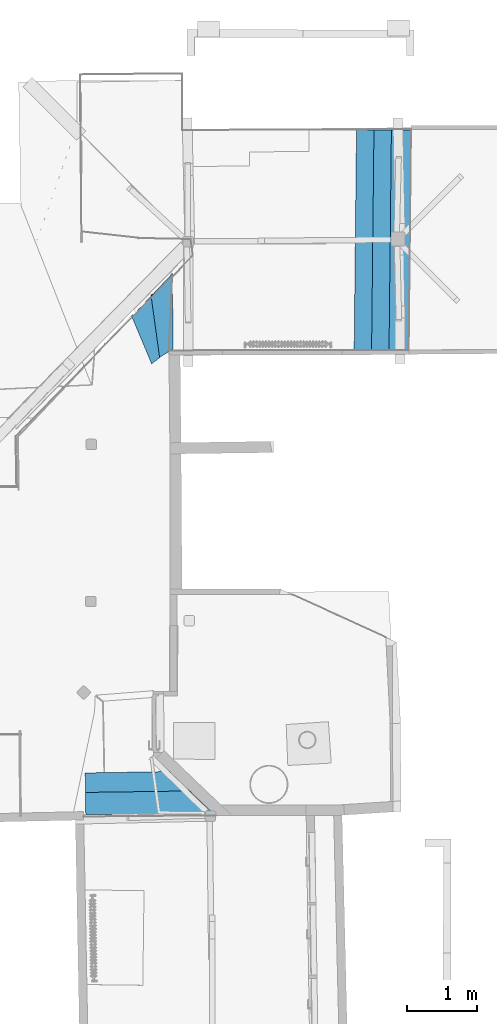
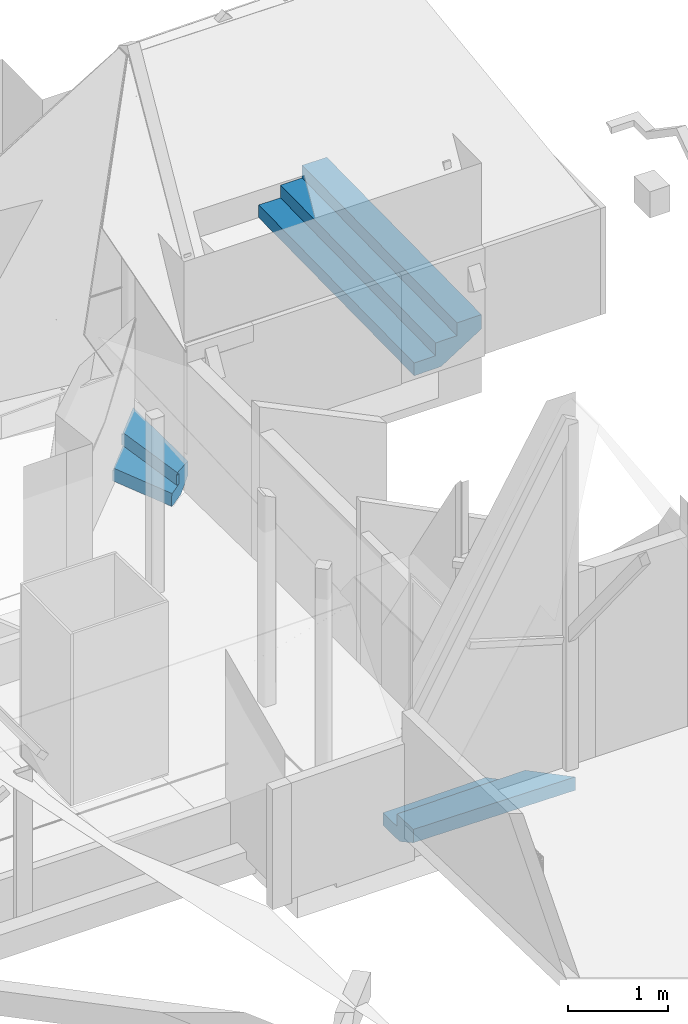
# One storey, part 24 of 39: 3 stair flights, 3 elements without a shape of their own.
"""IFC2X3 building model written with IfcOpenShell, lengths in centimetres."""

from ifc_helpers import new_model, entity, si_unit, converted_unit, direction, frame, origin, origin_with_axes, place, context, subcontext, project, spatial, faceted_brep, material, material_list, element, aggregate, save


model = new_model("IFC2X3")

# Units and contexts
model_context = context("Model", 3, precision=0.0001, world=origin(), true_north=direction((0.225632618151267, 0.974212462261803, 0.0)))
body_context = subcontext(model_context, "Body", "Model", "MODEL_VIEW")
ifc_project = project(units=[si_unit("LENGTHUNIT", "METRE", prefix="CENTI"), si_unit("AREAUNIT", "SQUARE_METRE", prefix="CENTI"), si_unit("VOLUMEUNIT", "CUBIC_METRE", prefix="CENTI"), converted_unit("PLANEANGLEUNIT", "DEGREE", entity("IfcRatioMeasure", 0.0174532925), si_unit("PLANEANGLEUNIT", "RADIAN"), dimensions=[0, 0, 0, 0, 0, 0, 0])], contexts=[model_context])

# Site, building, storey
site_placement = place(None, origin_with_axes())
site = spatial("IfcSite", under=ifc_project, at=site_placement, Name="Default Site", CompositionType="ELEMENT")
building_placement = place(site_placement, origin_with_axes())
building = spatial("IfcBuilding", under=site, at=building_placement, Name="Default Building", CompositionType="ELEMENT")
storey_placement = place(building_placement, frame((0.0, 0.0, 1088.91037418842), z_axis=(0.0, 0.0, 1.0), x_axis=(1.0, 0.0, 0.0)))
storey = spatial("IfcBuildingStorey", under=building, at=storey_placement, Name="Mezzanine", CompositionType="ELEMENT", Elevation=1088.91037418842)

# Stair, stair flight
stair_1_placement = place(storey_placement, frame((446.985837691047, -293.779378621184, 1.08962581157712), z_axis=(0.0, 0.0, 1.0), x_axis=(1.0, 0.0, 0.0)))
stair_1 = element("IfcStair", 1, at=stair_1_placement, inside=storey, Name="Escalier 197960", ShapeType="NOTDEFINED")
ifc_material_1 = material(Name="Blanc")
ifc_material_2 = material(Name="Blanc apricena")
ifc_material_3 = material(Name="Brèche oniciata")
ifc_material_list = material_list([ifc_material_1, ifc_material_2, ifc_material_3])
stair_flight_1_placement = place(stair_1_placement, frame((61.4881784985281, 0.99156448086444, 12.3333549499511), z_axis=(0.0, 0.0, 1.0), x_axis=(0.0161330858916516, -0.999869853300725, 0.0)))
stair_flight_1 = element("IfcStairFlight", 2, at=stair_flight_1_placement, material=ifc_material_list, Name="4294967292", context=body_context, shape_type="Brep", body=[
    faceted_brep([(-2.99998226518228, 0.0, -12.3333930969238), (0.0, 0.0, -12.3333930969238), (-0.00112768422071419, -122.992315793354, -12.3333930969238), (-3.00113340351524, -122.992291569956, -12.3333930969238), (0.0, 0.0, 0.0), (-2.99998226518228, 0.0, 0.0), (-3.00113340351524, -122.992291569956, 0.0), (-0.00112768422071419, -122.992315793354, 0.0), (-3.00113348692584, -122.992291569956, -12.3333930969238), (-2.99998218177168, -7.80732622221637e-13, 0.0), (-2.99998226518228, -1.15196738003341e-09, -12.3333930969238), (-4.42345563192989e-19, 1.15196738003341e-09, 0.0), (-5.5560125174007e-08, 5.09391087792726e-13, -12.3333930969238), (-0.00112762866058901, -122.992315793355, 0.0), (-0.00112768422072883, -122.992315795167, -12.3333930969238), (-3.00113340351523, -122.992291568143, 0.0)], [[[0, 1, 2]], [[2, 3, 0]], [[4, 5, 6]], [[6, 7, 4]], [[5, 0, 8]], [[3, 6, 9]], [[4, 1, 10]], [[0, 5, 11]], [[7, 2, 12]], [[1, 4, 13]], [[6, 3, 14]], [[2, 7, 15]]]),
    faceted_brep([(25.2440559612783, 29.1303420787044, 2.99997329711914), (28.244064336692, 29.1245711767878, 2.99997329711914), (27.9511390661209, -123.062574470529, 2.99997329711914), (24.9511306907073, -123.056803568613, 2.99997329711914), (28.244064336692, 29.1245711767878, 15.3332710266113), (25.2440559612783, 29.1303420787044, 15.3332710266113), (24.9511306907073, -123.056803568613, 15.3332710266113), (27.9511390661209, -123.062574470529, 15.3332710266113), (24.9511307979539, -123.056803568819, 2.99997329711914), (25.2440558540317, 29.1303420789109, 15.3332710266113), (25.2440559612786, 29.1303420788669, 2.99997329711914), (28.2440643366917, 29.1245711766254, 15.3332710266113), (28.2440642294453, 29.1245711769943, 2.99997329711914), (27.9511391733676, -123.062574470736, 15.3332710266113), (27.9511390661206, -123.062574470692, 2.99997329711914), (24.9511306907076, -123.05680356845, 15.3332710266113)], [[[0, 1, 2]], [[2, 3, 0]], [[4, 5, 6]], [[6, 7, 4]], [[5, 0, 8]], [[3, 6, 9]], [[4, 1, 10]], [[0, 5, 11]], [[7, 2, 12]], [[1, 4, 13]], [[6, 3, 14]], [[2, 7, 15]]]),
    faceted_brep([(-0.00112768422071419, -122.992315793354, -12.3333930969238), (-0.00112768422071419, -122.992315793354, 0.0), (-5.5560125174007e-08, 5.09391087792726e-13, 0.0), (0.0, 0.0, 0.0), (0.0, 0.0, -12.3333930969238), (-0.00112762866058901, -122.992315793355, -12.3333930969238), (27.9511390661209, -123.062574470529, 0.0), (27.9511390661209, -123.062574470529, 15.3332710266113), (28.2440642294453, 29.1245711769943, 15.3332710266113), (28.244064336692, 29.1245711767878, 15.3332710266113), (28.244064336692, 29.1245711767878, 0.0), (27.9511391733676, -123.062574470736, 0.0), (56.4440922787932, -123.134189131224, 15.3332710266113), (61.0802453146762, 62.9844810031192, 15.3332710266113), (56.4440922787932, -123.134189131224, 2.03256607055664), (61.0802453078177, 62.98448100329, 2.03256607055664), (61.0802453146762, 62.9844810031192, 2.03256607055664), (56.4440922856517, -123.134189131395, 15.3332710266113), (32.4669739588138, 33.4791494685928, -12.3333930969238), (30.0021280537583, -123.067721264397, -12.3333930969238), (30.0021280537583, -123.067721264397, 15.3332710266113), (27.9511390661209, -123.062574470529, -2.65524129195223e-32), (27.951139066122, -123.06257447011, 2.66308143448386e-16), (-0.00112768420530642, -122.992315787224, -12.3333930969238), (27.9511390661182, -123.062574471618, 0.0), (30.0021280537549, -123.067721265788, 15.3332710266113), (56.4440922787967, -123.134189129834, 2.03256607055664), (32.4669741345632, 33.4791492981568, -12.3333930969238), (-1.37798268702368e-07, 1.33632291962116e-07, 2.13895310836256e-13), (28.2440643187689, 29.1245711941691, 2.78208859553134e-14), (28.2440643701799, 29.1245711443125, 0.0), (32.4669739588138, 33.4791494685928, 15.3332710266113), (28.2440643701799, 29.1245711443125, 2.78478645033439e-24), (28.2440643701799, 29.1245711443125, 15.3332710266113), (32.4669745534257, 33.4791488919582, -12.3333930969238), (32.4669745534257, 33.4791488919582, 15.3332710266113), (61.0802447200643, 62.9844815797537, 15.3332710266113), (61.0802447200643, 62.9844815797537, 2.03256607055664), (61.0802451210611, 62.9844810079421, 2.03256644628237), (56.4440920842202, -123.134189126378, 2.03256644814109), (56.4440924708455, -123.134189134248, 2.03256571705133), (30.0021280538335, -123.067721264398, -12.3333930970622)], [[[0, 1, 2]], [[3, 4, 5]], [[6, 7, 8]], [[9, 10, 11]], [[3, 1, 6]], [[6, 10, 3]], [[9, 7, 12]], [[12, 13, 9]], [[12, 14, 15]], [[16, 13, 17]], [[4, 18, 19]], [[19, 0, 4]], [[7, 19, 20]], [[19, 7, 21]], [[19, 22, 23]], [[0, 24, 1]], [[14, 12, 25]], [[20, 19, 26]], [[3, 27, 4]], [[18, 28, 29]], [[18, 30, 31]], [[31, 32, 33]], [[16, 34, 35]], [[31, 36, 37]], [[18, 38, 39]], [[18, 40, 41]]]),
    faceted_brep([(-3.00001436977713, -3.09359706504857, 2.99997329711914), (-3.00113143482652, -122.984780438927, 2.99997329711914), (27.9511390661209, -123.062574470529, 2.99997329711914), (28.244064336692, 29.1245711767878, 2.99997329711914), (27.9511390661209, -123.062574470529, 0.0), (-3.00113143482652, -122.984780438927, 0.0), (-3.00001436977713, -3.09359706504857, 0.0), (28.244064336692, 29.1245711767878, 0.0), (-3.00001437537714, -3.09359706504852, 2.99997329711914), (-3.00113142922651, -122.984780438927, 0.0), (-3.0011314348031, -122.98478042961, 2.99997329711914), (27.9511390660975, -123.062574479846, 0.0), (27.9511391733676, -123.062574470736, 2.99997329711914), (28.2440642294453, 29.1245711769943, 0.0), (28.2440646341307, 29.124570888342, 2.99997329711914), (-3.00001466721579, -3.09359677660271, 0.0)], [[[0, 1, 2]], [[2, 3, 0]], [[4, 5, 6]], [[6, 7, 4]], [[5, 1, 8]], [[0, 6, 9]], [[4, 2, 10]], [[1, 5, 11]], [[7, 3, 12]], [[2, 4, 13]], [[6, 0, 14]], [[3, 7, 15]]]),
    faceted_brep([(25.2380856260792, 26.0248706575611, 18.3333396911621), (24.9511306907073, -123.056803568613, 18.3333396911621), (56.4440922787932, -123.134189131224, 18.3333396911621), (61.0802453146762, 62.9844810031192, 18.3333396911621), (56.4440922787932, -123.134189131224, 15.3332710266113), (24.9511306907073, -123.056803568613, 15.3332710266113), (25.2380856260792, 26.0248706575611, 15.3332710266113), (61.0802453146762, 62.9844810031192, 15.3332710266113), (25.2380856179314, 26.0248706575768, 18.3333396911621), (24.9511306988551, -123.056803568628, 15.3332710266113), (24.951130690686, -123.056803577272, 18.3333396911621), (56.4440922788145, -123.134189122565, 15.3332710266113), (56.4440922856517, -123.134189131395, 18.3333396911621), (61.0802453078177, 62.98448100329, 15.3332710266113), (61.0802449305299, 62.9844813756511, 18.3333396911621), (25.2380860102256, 26.0248702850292, 15.3332710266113)], [[[0, 1, 2]], [[2, 3, 0]], [[4, 5, 6]], [[6, 7, 4]], [[5, 1, 8]], [[0, 6, 9]], [[4, 2, 10]], [[1, 5, 11]], [[7, 3, 12]], [[2, 4, 13]], [[6, 0, 14]], [[3, 7, 15]]]),
])
aggregate(stair_1, [stair_flight_1])

stair_2_placement = place(storey_placement, frame((775.384677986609, 471.172017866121, 47.9047533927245), z_axis=(0.0, 0.0, 1.0), x_axis=(1.0, 0.0, 0.0)))
stair_2 = element("IfcStair", 3, at=stair_2_placement, inside=storey, Name="Escalier 193050", ShapeType="NOTDEFINED")
stair_flight_2_placement = place(stair_2_placement, frame((1.68207730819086, 158.197956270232, 12.5461967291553), z_axis=(0.0, 0.0, 1.0), x_axis=(0.999943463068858, -0.010633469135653, 0.0)))
stair_flight_2 = element("IfcStairFlight", 4, at=stair_flight_2_placement, material=ifc_material_list, Name="4294967277", context=body_context, shape_type="Brep", body=[
    faceted_brep([(-2.99999985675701, 0.0, -12.5461578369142), (0.0, 0.0, -12.5461578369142), (0.000442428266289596, -316.413786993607, -12.5461578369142), (-2.99955717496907, -316.413810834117, -12.5461578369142), (0.0, 0.0, -1.77635683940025e-13), (-2.99999985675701, 0.0, -1.77635683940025e-13), (-2.99955717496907, -316.413810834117, -1.77635683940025e-13), (0.000442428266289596, -316.413786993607, -1.77635683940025e-13), (-2.99955700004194, -316.413810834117, -12.5461578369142), (-3.00000003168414, -2.44830198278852e-13, -1.77635683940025e-13), (-2.99999985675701, 2.16000557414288e-09, -12.5461578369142), (-1.55520810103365e-18, -2.16000557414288e-09, -1.77635683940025e-13), (-1.33748773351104e-07, -1.87071894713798e-13, -12.5461578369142), (0.000442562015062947, -316.413786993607, -1.77635683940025e-13), (0.000442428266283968, -316.413786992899, -12.5461578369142), (-2.99955717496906, -316.413810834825, -1.77635683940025e-13)], [[[0, 1, 2]], [[2, 3, 0]], [[4, 5, 6]], [[6, 7, 4]], [[5, 0, 8]], [[3, 6, 9]], [[4, 1, 10]], [[0, 5, 11]], [[7, 2, 12]], [[1, 4, 13]], [[6, 3, 14]], [[2, 7, 15]]]),
    faceted_brep([(22.0146145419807, 0.121851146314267, 3.0000686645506), (25.0146686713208, 0.121231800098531, 3.0000686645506), (24.9480512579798, -315.762208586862, 3.0000686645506), (21.9479968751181, -315.761565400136, 3.0000686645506), (25.0146686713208, 0.121231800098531, 15.5462265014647), (22.0146145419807, 0.121851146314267, 15.5462265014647), (21.9479968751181, -315.761565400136, 15.5462265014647), (24.9480512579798, -315.762208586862, 15.5462265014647), (21.9479968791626, -315.761565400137, 3.0000686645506), (22.0146145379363, 0.12185114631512, 15.5462265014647), (22.0146145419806, 0.121851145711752, 3.0000686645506), (25.0146686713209, 0.121231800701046, 15.5462265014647), (25.0146686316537, 0.121231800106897, 3.0000686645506), (24.948051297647, -315.762208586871, 15.5462265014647), (24.9480512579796, -315.762208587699, 3.0000686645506), (21.9479968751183, -315.761565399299, 15.5462265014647)], [[[0, 1, 2]], [[2, 3, 0]], [[4, 5, 6]], [[6, 7, 4]], [[5, 0, 8]], [[3, 6, 9]], [[4, 1, 10]], [[0, 5, 11]], [[7, 2, 12]], [[1, 4, 13]], [[6, 3, 14]], [[2, 7, 15]]]),
    faceted_brep([(47.0013882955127, 0.242929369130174, 18.5461997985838), (50.0013470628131, 0.242309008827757, 18.5461997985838), (49.9349426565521, -315.109592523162, 18.5461997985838), (46.9349836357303, -315.10894832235, 18.5461997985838), (50.0013470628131, 0.242309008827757, 31.0924530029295), (47.0013882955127, 0.242929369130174, 31.0924530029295), (46.9349836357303, -315.10894832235, 31.0924530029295), (49.9349426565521, -315.109592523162, 31.0924530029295), (46.9349836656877, -315.108948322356, 18.5461997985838), (47.0013882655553, 0.242929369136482, 31.0924530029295), (47.0013882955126, 0.24292936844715, 18.5461997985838), (50.0013470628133, 0.242309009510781, 31.0924530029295), (50.0013469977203, 0.242309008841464, 18.5461997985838), (49.934942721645, -315.109592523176, 31.0924530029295), (49.9349426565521, -315.109592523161, 18.5461997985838), (46.9349836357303, -315.108948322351, 31.0924530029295)], [[[0, 1, 2]], [[2, 3, 0]], [[4, 5, 6]], [[6, 7, 4]], [[5, 0, 8]], [[3, 6, 9]], [[4, 1, 10]], [[0, 5, 11]], [[7, 2, 12]], [[1, 4, 13]], [[6, 3, 14]], [[2, 7, 15]]]),
    faceted_brep([(0.000442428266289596, -316.413786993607, -12.5461578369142), (0.000442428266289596, -316.413786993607, -1.77635683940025e-13), (-1.33748773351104e-07, -1.87071894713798e-13, -1.77635683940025e-13), (0.0, 0.0, -1.77635683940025e-13), (0.0, 0.0, -12.5461578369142), (0.000442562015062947, -316.413786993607, -12.5461578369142), (24.9480512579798, -315.762208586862, -1.77635683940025e-13), (24.9480512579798, -315.762208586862, 15.5462265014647), (25.0146686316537, 0.121231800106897, 15.5462265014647), (25.0146686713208, 0.121231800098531, 15.5462265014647), (25.0146686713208, 0.121231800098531, -1.77635683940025e-13), (24.948051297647, -315.762208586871, -1.77635683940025e-13), (49.9349426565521, -315.109592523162, 15.5462265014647), (49.9349426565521, -315.109592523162, 31.0924530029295), (50.0013469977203, 0.242309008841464, 31.0924530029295), (50.0013470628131, 0.242309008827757, 31.0924530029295), (50.0013470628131, 0.242309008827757, 15.5462265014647), (49.934942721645, -315.109592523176, 15.5462265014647), (75.3619050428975, -314.445477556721, 31.0924530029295), (75.3501374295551, 0.365138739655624, 31.0924530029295), (75.3619050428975, -314.445477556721, 16.4527893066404), (75.3501373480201, 0.365138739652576, 16.4527893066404), (75.3501374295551, 0.365138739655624, 16.4527893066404), (75.3619051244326, -314.445477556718, 31.0924530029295), (28.4989352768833, 0.138112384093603, -12.5461578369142), (28.5037547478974, -315.669343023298, -12.5461578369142), (75.3501380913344, 0.365138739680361, 16.4527882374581), (75.361905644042, -314.445477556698, 16.4527883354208), (28.5037540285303, -315.669343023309, -12.5461566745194), (28.4989345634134, 0.138112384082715, -12.5461566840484), (24.9480512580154, -315.762208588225, -1.77460889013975e-13), (0.000442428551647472, -316.413787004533, -12.5461578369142), (28.5037547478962, -315.669343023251, -12.5461578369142), (28.5037547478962, -315.669343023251, 15.5462265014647), (24.9480512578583, -315.76220858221, -1.77635683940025e-13), (49.9349426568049, -315.109592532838, 15.5462265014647), (28.5037547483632, -315.66934304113, -12.5461578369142), (75.3619050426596, -314.445477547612, 16.4527893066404), (75.3619050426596, -314.445477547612, 31.0924530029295), (28.5037547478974, -315.669343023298, 15.5462265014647), (49.9349426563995, -315.109592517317, 15.5462265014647), (28.4989352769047, 0.138112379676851, -12.5461578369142), (-1.10571986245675e-11, 2.28151495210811e-09, -1.78665781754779e-13), (25.0146686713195, 0.121231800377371, -1.7776157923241e-13), (25.0146686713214, 0.121231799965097, -1.77635683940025e-13), (28.4989352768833, 0.138112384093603, 15.5462265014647), (25.0146686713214, 0.121231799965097, 15.5462265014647), (50.0013470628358, 0.242309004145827, 15.5462265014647), (75.3501374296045, 0.365138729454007, 16.4527893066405), (28.498935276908, 0.138112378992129, -12.5461578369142), (28.498935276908, 0.138112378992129, 15.5462265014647), (50.0013470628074, 0.242309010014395, 15.5462265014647), (50.0013470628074, 0.242309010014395, 31.0924530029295)], [[[0, 1, 2]], [[3, 4, 5]], [[6, 7, 8]], [[9, 10, 11]], [[12, 13, 14]], [[15, 16, 17]], [[3, 1, 6]], [[6, 10, 3]], [[9, 7, 12]], [[12, 16, 9]], [[15, 13, 18]], [[18, 19, 15]], [[18, 20, 21]], [[22, 19, 23]], [[4, 24, 25]], [[25, 0, 4]], [[24, 26, 27]], [[20, 28, 29]], [[25, 30, 31]], [[6, 32, 33]], [[6, 33, 7]], [[1, 0, 34]], [[20, 35, 36]], [[12, 37, 13]], [[13, 37, 38]], [[39, 25, 40]], [[3, 41, 4]], [[24, 42, 43]], [[24, 44, 45]], [[45, 44, 46]], [[24, 47, 48]], [[16, 49, 50]], [[22, 51, 52]], [[22, 52, 19]]]),
    faceted_brep([(-3.00003593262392, -0.0145447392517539, 3.0000686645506), (-2.99958236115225, -316.492159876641, 3.0000686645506), (24.9480512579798, -315.762208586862, 3.0000686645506), (25.0146686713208, 0.121231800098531, 3.0000686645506), (24.9480512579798, -315.762208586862, -1.77635683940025e-13), (-2.99958236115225, -316.492159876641, -1.77635683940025e-13), (-3.00003593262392, -0.0145447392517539, -1.77635683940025e-13), (25.0146686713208, 0.121231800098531, -1.77635683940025e-13), (-3.00003591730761, -0.014544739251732, 3.0000686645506), (-2.99958237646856, -316.492159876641, -1.77635683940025e-13), (-2.99958236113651, -316.492159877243, 3.0000686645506), (24.9480512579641, -315.76220858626, -1.77635683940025e-13), (24.948051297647, -315.762208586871, 3.0000686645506), (25.0146686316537, 0.121231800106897, -1.77635683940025e-13), (25.014668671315, 0.121231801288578, 3.0000686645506), (-3.00003593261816, -0.0145447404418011, -1.77635683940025e-13)], [[[0, 1, 2]], [[2, 3, 0]], [[4, 5, 6]], [[6, 7, 4]], [[5, 1, 8]], [[0, 6, 9]], [[4, 2, 10]], [[1, 5, 11]], [[7, 3, 12]], [[2, 4, 13]], [[6, 0, 14]], [[3, 7, 15]]]),
    faceted_brep([(22.0145850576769, 0.106686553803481, 18.5461997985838), (21.9479785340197, -315.840558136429, 18.5461997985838), (49.9349426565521, -315.109592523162, 18.5461997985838), (50.0013470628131, 0.242309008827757, 18.5461997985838), (49.9349426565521, -315.109592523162, 15.5462265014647), (21.9479785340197, -315.840558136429, 15.5462265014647), (22.0145850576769, 0.106686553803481, 15.5462265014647), (50.0013470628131, 0.242309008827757, 15.5462265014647), (22.0145852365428, 0.106686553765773, 18.5461997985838), (21.9479783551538, -315.840558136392, 15.5462265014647), (21.9479785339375, -315.840558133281, 18.5461997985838), (49.9349426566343, -315.10959252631, 15.5462265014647), (49.934942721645, -315.109592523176, 18.5461997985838), (50.0013469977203, 0.242309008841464, 15.5462265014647), (50.0013470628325, 0.242309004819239, 18.5461997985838), (22.0145850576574, 0.106686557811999, 15.5462265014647)], [[[0, 1, 2]], [[2, 3, 0]], [[4, 5, 6]], [[6, 7, 4]], [[5, 1, 8]], [[0, 6, 9]], [[4, 2, 10]], [[1, 5, 11]], [[7, 3, 12]], [[2, 4, 13]], [[6, 0, 14]], [[3, 7, 15]]]),
    faceted_brep([(47.001358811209, 0.227764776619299, 34.0924263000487), (46.9349652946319, -315.187941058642, 34.0924263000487), (75.3619050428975, -314.445477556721, 34.0924263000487), (75.3501374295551, 0.365138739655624, 34.0924263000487), (75.3619050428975, -314.445477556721, 31.0924530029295), (46.9349652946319, -315.187941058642, 31.0924530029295), (47.001358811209, 0.227764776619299, 31.0924530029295), (75.3501374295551, 0.365138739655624, 31.0924530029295), (47.0013586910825, 0.227764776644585, 34.0924263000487), (46.9349654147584, -315.187941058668, 31.0924530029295), (46.9349652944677, -315.187941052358, 34.0924263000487), (75.3619050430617, -314.445477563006, 31.0924530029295), (75.3619051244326, -314.445477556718, 34.0924263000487), (75.3501373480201, 0.365138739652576, 31.0924530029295), (75.3501374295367, 0.365138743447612, 34.0924263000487), (47.0013588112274, 0.22776477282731, 31.0924530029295)], [[[0, 1, 2]], [[2, 3, 0]], [[4, 5, 6]], [[6, 7, 4]], [[5, 1, 8]], [[0, 6, 9]], [[4, 2, 10]], [[1, 5, 11]], [[7, 3, 12]], [[2, 4, 13]], [[6, 0, 14]], [[3, 7, 15]]]),
])
aggregate(stair_2, [stair_flight_2])

stair_3_placement = place(storey_placement, frame((468.799430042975, 330.224629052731, 1.08962581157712), z_axis=(0.0, 0.0, 1.0), x_axis=(1.0, 0.0, 0.0)))
stair_3 = element("IfcStair", 5, at=stair_3_placement, inside=storey, Name="Escalier 192842", ShapeType="NOTDEFINED")
stair_flight_3_placement = place(stair_3_placement, frame((-14.3326102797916, 34.1112178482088, 12.9999732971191), z_axis=(0.0, 0.0, 1.0), x_axis=(0.921926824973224, 0.387364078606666, 0.0)))
stair_flight_3 = element("IfcStairFlight", 6, at=stair_flight_3_placement, material=ifc_material_list, Name="4294967260", context=body_context, shape_type="Brep", body=[
    faceted_brep([(-3.00001962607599, 2.22044604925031e-14, -13.0000114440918), (0.0, 0.0, -13.0000114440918), (0.000288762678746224, -74.0000020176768, -13.0000114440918), (-2.99973086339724, -74.0000020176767, -13.0000114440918), (0.0, 0.0, 0.0), (-3.00001962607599, 2.22044604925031e-14, 0.0), (-2.99973086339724, -74.0000020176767, 0.0), (0.000288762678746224, -74.0000020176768, 0.0), (-2.99973136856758, -74.0000020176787, -13.0000114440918), (-3.00001912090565, 1.99003067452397e-12, 0.0), (-3.00001962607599, -6.32610421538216e-08, -13.0000114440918), (-1.33397822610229e-15, 6.32610643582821e-08, 0.0), (5.05170340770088e-07, 1.96782621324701e-12, -13.0000114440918), (0.000288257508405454, -74.0000020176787, 0.0), (0.00028876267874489, -74.0000019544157, -13.0000114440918), (-2.99973086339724, -74.0000020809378, 0.0)], [[[0, 1, 2]], [[2, 3, 0]], [[4, 5, 6]], [[6, 7, 4]], [[5, 0, 8]], [[3, 6, 9]], [[4, 1, 10]], [[0, 5, 11]], [[7, 2, 12]], [[1, 4, 13]], [[6, 3, 14]], [[2, 7, 15]]]),
    faceted_brep([(34.4873365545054, 17.3662001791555, 3.00006866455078), (37.3861394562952, 16.5936443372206, 3.00006866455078), (14.3024769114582, -70.0227739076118, 3.00006866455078), (11.4036740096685, -69.2502180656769, 3.00006866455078), (37.3861394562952, 16.5936443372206, 15.9999847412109), (34.4873365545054, 17.3662001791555, 15.9999847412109), (11.4036740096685, -69.2502180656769, 15.9999847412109), (14.3024769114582, -70.0227739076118, 15.9999847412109), (11.4036737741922, -69.2502180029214, 3.00006866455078), (34.4873367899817, 17.3662001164, 15.9999847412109), (34.4873365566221, 17.3662001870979, 3.00006866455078), (37.3861394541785, 16.5936443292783, 15.9999847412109), (37.3861396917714, 16.5936442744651, 3.00006866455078), (14.302476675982, -70.0227738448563, 15.9999847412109), (14.3024769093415, -70.0227739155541, 3.00006866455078), (11.4036740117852, -69.2502180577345, 15.9999847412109)], [[[0, 1, 2]], [[2, 3, 0]], [[4, 5, 6]], [[6, 7, 4]], [[5, 0, 8]], [[3, 6, 9]], [[4, 1, 10]], [[0, 5, 11]], [[7, 2, 12]], [[1, 4, 13]], [[6, 3, 14]], [[2, 7, 15]]]),
    faceted_brep([(0.000288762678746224, -74.0000020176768, -13.0000114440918), (0.000288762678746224, -74.0000020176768, 0.0), (5.05170340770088e-07, 1.96782621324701e-12, 0.0), (0.0, 0.0, 0.0), (0.0, 0.0, -13.0000114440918), (0.000288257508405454, -74.0000020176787, -13.0000114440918), (14.3024769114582, -70.0227739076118, 0.0), (14.3024769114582, -70.0227739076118, 15.9999847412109), (37.3861396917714, 16.5936442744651, 15.9999847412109), (37.3861394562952, 16.5936443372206, 15.9999847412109), (37.3861394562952, 16.5936443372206, 0.0), (14.302476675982, -70.0227738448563, 0.0), (33.5974535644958, -66.9082646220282, 15.9999847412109), (74.6124969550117, 33.1163525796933, 15.9999847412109), (33.5974535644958, -66.9082646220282, 1.86920166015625), (74.6124969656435, 33.1163525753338, 1.86920166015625), (74.6124969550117, 33.1163525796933, 1.86920166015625), (33.597453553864, -66.9082646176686, 15.9999847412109), (39.9428868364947, 17.72844508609, -13.0000114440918), (14.3024769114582, -70.0227739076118, -13.0000114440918), (17.8278276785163, -69.4537092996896, -13.0000114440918), (0.000288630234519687, -74.0000015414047, 0.0), (14.3024770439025, -70.0227743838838, -13.0000114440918), (17.8278276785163, -69.4537092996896, 15.9999847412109), (14.3024768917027, -70.0227737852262, -13.0000114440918), (17.8278276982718, -69.4537094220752, 15.9999847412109), (17.8278277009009, -69.4537094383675, 15.9999847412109), (33.5974535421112, -66.9082644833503, 1.86920166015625), (39.9428868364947, 17.72844508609, 15.9999847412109), (37.3861394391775, 16.5936443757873, 0.0), (37.3861394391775, 16.5936443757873, 15.9999847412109), (-3.14384822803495e-07, 7.08321522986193e-07, -13.0000114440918), (-3.14384822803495e-07, 7.08321522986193e-07, 0.0), (37.3861389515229, 16.5936454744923, 1.36591385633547e-13), (39.9428862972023, 17.728446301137, -13.0000114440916), (39.9428872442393, 17.7284441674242, -13.0000114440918), (39.9428872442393, 17.7284441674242, 15.9999847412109), (74.6124965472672, 33.1163534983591, 15.9999847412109), (74.6124965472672, 33.1163534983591, 1.86920166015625), (37.846729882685, -24.954719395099, -7.23228454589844), (17.8278276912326, -69.4537093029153, -13.0000114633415), (39.9428865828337, 17.7284451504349, -13.0000110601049), (49.8188461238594, -5.50175411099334, -3.76014709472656), (39.9428867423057, 17.728445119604, -13.0000112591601), (74.6124969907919, 33.1163525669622, 1.86920158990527), (37.8467298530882, -24.9547193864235, -7.23228449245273), (39.9428867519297, 17.7284451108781, -13.0000112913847), (36.0631495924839, -46.0470706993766, -3.20968627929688), (33.5974535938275, -66.9082646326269, 1.86920163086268), (17.8278276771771, -69.4537092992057, -13.0000114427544), (17.8278277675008, -69.453709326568, -13.0000115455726), (37.8467298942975, -24.9547193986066, -7.2322845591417), (41.9846273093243, -36.2986902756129, -1.37357711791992), (74.6124970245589, 33.1163525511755, 1.8692015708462), (33.5974536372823, -66.9082646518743, 1.86920156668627), (49.8188461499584, -5.50175412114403, -3.76014714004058), (74.6124969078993, 33.1163525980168, 1.86920174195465), (36.0631495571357, -46.0470706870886, -3.2096862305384), (37.8467297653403, -24.9547193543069, -7.23228438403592), (37.8467297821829, -24.9547193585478, -7.23228440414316), (49.8188460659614, -5.50175408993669, -3.76014701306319), (33.5974536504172, -66.9082646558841, 1.86920156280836), (36.0631495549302, -46.0470706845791, -3.20968623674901)], [[[0, 1, 2]], [[3, 4, 5]], [[6, 7, 8]], [[9, 10, 11]], [[3, 1, 6]], [[6, 10, 3]], [[9, 7, 12]], [[12, 13, 9]], [[12, 14, 15]], [[16, 13, 17]], [[18, 0, 4]], [[0, 18, 19]], [[19, 18, 20]], [[19, 6, 21]], [[1, 0, 22]], [[23, 24, 20]], [[19, 25, 6]], [[6, 25, 7]], [[14, 12, 26]], [[23, 20, 27]], [[28, 29, 30]], [[10, 31, 32]], [[4, 33, 34]], [[18, 29, 28]], [[16, 35, 36]], [[28, 37, 38]], [[39, 40, 41]], [[42, 43, 44]], [[42, 45, 46]], [[47, 48, 49]], [[47, 50, 51]], [[52, 53, 54]], [[52, 55, 56]], [[52, 57, 58]], [[52, 59, 60]], [[52, 61, 62]]]),
    faceted_brep([(-3.00001096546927, -1.33152968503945, 3.00006866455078), (-2.99973519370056, -74.834246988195, 3.00006866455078), (14.3024769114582, -70.0227739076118, 3.00006866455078), (37.3861394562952, 16.5936443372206, 3.00006866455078), (14.3024769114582, -70.0227739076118, 0.0), (-2.99973519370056, -74.834246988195, 0.0), (-3.00001096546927, -1.33152968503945, 0.0), (37.3861394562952, 16.5936443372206, 0.0), (-3.00001173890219, -1.33152968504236, 3.00006866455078), (-2.99973442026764, -74.8342469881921, 0.0), (-2.99973512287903, -74.8342472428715, 3.00006866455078), (14.3024768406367, -70.0227736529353, 0.0), (14.302476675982, -70.0227738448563, 3.00006866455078), (37.3861396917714, 16.5936442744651, 0.0), (37.3861392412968, 16.5936448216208, 3.00006866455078), (-3.00001075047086, -1.33153016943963, 0.0)], [[[0, 1, 2]], [[2, 3, 0]], [[4, 5, 6]], [[6, 7, 4]], [[5, 1, 8]], [[0, 6, 9]], [[4, 2, 10]], [[1, 5, 11]], [[7, 3, 12]], [[2, 4, 13]], [[6, 0, 14]], [[3, 7, 15]]]),
    faceted_brep([(10.949246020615, -70.9552480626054, 19.0000534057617), (74.6124969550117, 33.1163525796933, 19.0000534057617), (33.8649104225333, 15.0307720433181, 19.0000534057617), (14.3024769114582, -70.0227739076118, 19.0000534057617), (33.5974535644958, -66.9082646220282, 19.0000534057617), (74.6124969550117, 33.1163525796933, 15.9999847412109), (10.949246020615, -70.9552480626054, 15.9999847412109), (33.8649104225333, 15.0307720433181, 15.9999847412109), (14.3024769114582, -70.0227739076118, 15.9999847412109), (33.5974535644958, -66.9082646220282, 15.9999847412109), (33.8649103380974, 15.0307720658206, 19.0000534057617), (10.9492461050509, -70.9552480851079, 15.9999847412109), (10.949246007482, -70.9552480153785, 19.0000534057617), (14.3024769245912, -70.0227739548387, 15.9999847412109), (14.3024769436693, -70.0227741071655, 19.0000534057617), (33.5974535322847, -66.9082644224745, 15.9999847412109), (33.597453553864, -66.9082646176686, 19.0000534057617), (74.6124969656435, 33.1163525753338, 15.9999847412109), (74.6124972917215, 33.1163518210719, 19.0000534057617), (33.8649100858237, 15.0307728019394, 15.9999847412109)], [[[0, 1, 2]], [[1, 0, 3]], [[1, 3, 4]], [[5, 6, 7]], [[6, 5, 8]], [[8, 5, 9]], [[6, 0, 10]], [[2, 7, 11]], [[8, 3, 12]], [[0, 6, 13]], [[9, 4, 14]], [[3, 8, 15]], [[5, 1, 16]], [[4, 9, 17]], [[7, 2, 18]], [[1, 5, 19]]]),
])
aggregate(stair_3, [stair_flight_3])

save(model, "model.ifc")
